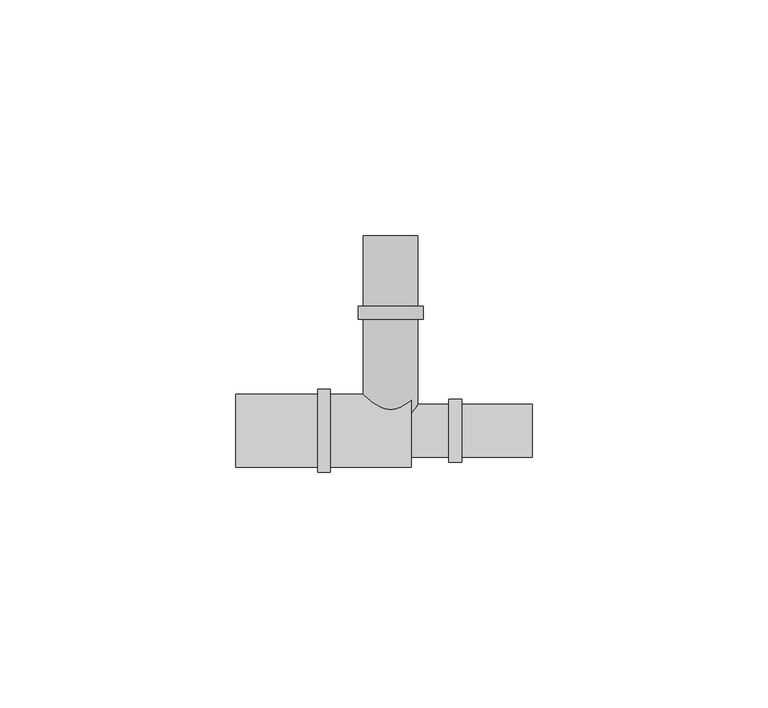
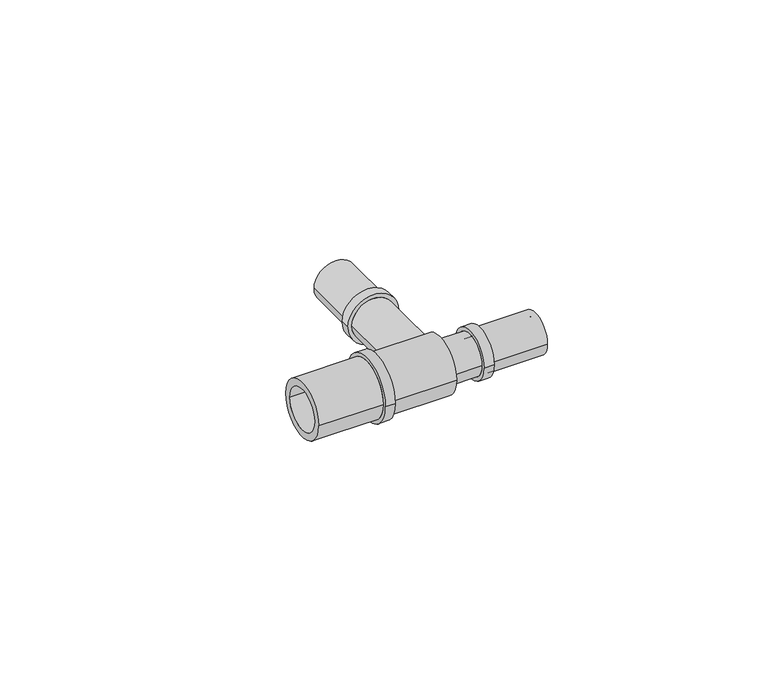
"""IFC4 building model written with IfcOpenShell, lengths in millimetres: pipe fitting geometry, FASTLOC_T-piece_LX : FSL T-Piece LX PL."""

from ifc_helpers import new_model, si_unit, frame, origin, place, context, project, spatial, polyline, circle_curve, source, transform, mapped, element, save
from ifc_brep_helpers import plane_surface, cylinder_surface, revolved_surface, advanced_brep


def pipe_fitting_dcf4181b(model_context):
    return source(origin(), model_context, "Body", "AdvancedBrep", [
        advanced_brep(
        [(3.95, 41.4, 0.0), (-3.95, 41.4, 0.0), (-3.95, 0.0, 0.0), (3.95, 0.0, 0.0), (5.8, 0.0, 0.0), (-5.8, 0.0, 0.0), (-5.8, 23.69, 0.0), (5.8, 23.69, 0.0), (6.9, 23.69, 0.0), (-6.9, 23.69, 0.0), (-6.9, 26.4, 0.0), (6.9, 26.4, 0.0), (5.8, 26.4, 0.0), (-5.8, 26.4, 0.0), (-5.8, 41.4, 0.0), (5.8, 41.4, 0.0)],
        [
            (0, 1, circle_curve(frame((0.0, 41.4, 0.0), z_axis=(0.0, 1.0, 0.0), x_axis=(-1.0, 0.0, 0.0)), 3.95)),
            (1, 2),
            (2, 3, circle_curve(frame((0.0, 0.0, 0.0), z_axis=(0.0, -1.0, 0.0), x_axis=(-1.0, 0.0, 0.0)), 3.95)),
            (3, 0),
            (4, 5, circle_curve(frame((0.0, 0.0, 0.0), z_axis=(0.0, 1.0, 0.0), x_axis=(-1.0, 0.0, 0.0)), 5.8)),
            (5, 6),
            (6, 7, circle_curve(frame((0.0, 23.69, 0.0), z_axis=(0.0, -1.0, 0.0), x_axis=(-1.0, 0.0, 0.0)), 5.8)),
            (7, 4),
            (8, 9, circle_curve(frame((0.0, 23.69, 0.0), z_axis=(0.0, 1.0, 0.0), x_axis=(-1.0, 0.0, 0.0)), 6.9)),
            (9, 10),
            (10, 11, circle_curve(frame((0.0, 26.4, 0.0), z_axis=(0.0, -1.0, 0.0), x_axis=(-1.0, 0.0, 0.0)), 6.9)),
            (11, 8),
            (12, 13, circle_curve(frame((0.0, 26.4, 0.0), z_axis=(0.0, 1.0, 0.0), x_axis=(-1.0, 0.0, 0.0)), 5.8)),
            (13, 14),
            (14, 15, circle_curve(frame((0.0, 41.4, 0.0), z_axis=(0.0, -1.0, 0.0), x_axis=(-1.0, 0.0, 0.0)), 5.8)),
            (15, 12),
            (1, 0, circle_curve(frame((0.0, 41.4, 0.0), z_axis=(0.0, 1.0, 0.0), x_axis=(1.0, 0.0, 0.0)), 3.95)),
            (3, 2, circle_curve(frame((0.0, 0.0, 0.0), z_axis=(0.0, -1.0, 0.0), x_axis=(1.0, 0.0, 0.0)), 3.95)),
            (4, 5, circle_curve(frame((0.0, 0.0, 0.0), z_axis=(0.0, -1.0, 0.0), x_axis=(1.0, 0.0, 0.0)), 5.8)),
            (7, 6, circle_curve(frame((0.0, 23.69, 0.0), z_axis=(0.0, -1.0, 0.0), x_axis=(1.0, 0.0, 0.0)), 5.8)),
            (8, 9, circle_curve(frame((0.0, 23.69, 0.0), z_axis=(0.0, -1.0, 0.0), x_axis=(1.0, 0.0, 0.0)), 6.9)),
            (11, 10, circle_curve(frame((0.0, 26.4, 0.0), z_axis=(0.0, -1.0, 0.0), x_axis=(1.0, 0.0, 0.0)), 6.9)),
            (12, 13, circle_curve(frame((0.0, 26.4, 0.0), z_axis=(0.0, -1.0, 0.0), x_axis=(1.0, 0.0, 0.0)), 5.8)),
            (15, 14, circle_curve(frame((0.0, 41.4, 0.0), z_axis=(0.0, -1.0, 0.0), x_axis=(1.0, 0.0, 0.0)), 5.8)),
        ],
        [
            revolved_surface(polyline([(-3.95, 0.0, 0.0), (-3.95, 41.4, 0.0)]), (0.0, 0.0, 0.0), (0.0, -1.0, 0.0)),
            cylinder_surface(frame((0.0, 0.0, 0.0), z_axis=(0.0, -1.0, 0.0), x_axis=(-1.0, 0.0, 0.0)), 5.8),
            cylinder_surface(frame((0.0, 0.0, 0.0), z_axis=(0.0, -1.0, 0.0), x_axis=(-1.0, 0.0, 0.0)), 6.9),
            revolved_surface(polyline([(3.95, 0.0, 0.0), (3.95, 41.4, 0.0)]), (0.0, 0.0, 0.0), (0.0, -1.0, 0.0)),
            plane_surface(frame((0.0, 0.0, 0.0), z_axis=(0.0, -1.0, 0.0), x_axis=(1.0, 0.0, 0.0))),
            cylinder_surface(frame((0.0, 0.0, 0.0), z_axis=(0.0, -1.0, 0.0), x_axis=(1.0, 0.0, 0.0)), 5.8),
            plane_surface(frame((0.0, 23.69, 0.0), z_axis=(0.0, -1.0, 0.0), x_axis=(1.0, 0.0, 0.0))),
            cylinder_surface(frame((0.0, 0.0, 0.0), z_axis=(0.0, -1.0, 0.0), x_axis=(1.0, 0.0, 0.0)), 6.9),
            plane_surface(frame((0.0, 26.4, 0.0), z_axis=(0.0, 1.0, 0.0), x_axis=(1.0, 0.0, 0.0))),
            plane_surface(frame((0.0, 41.4, 0.0), z_axis=(0.0, 1.0, 0.0), x_axis=(1.0, 0.0, 0.0))),
        ],
        [
            (0, [[1, 2, 3, 4]]),
            (1, [[5, 6, 7, 8]]),
            (2, [[9, 10, 11, 12]]),
            (1, [[13, 14, 15, 16]]),
            (3, [[17, -4, 18, -2]]),
            (4, [[19, -5], [-18, -3]]),
            (5, [[-19, -8, 20, -6]]),
            (6, [[21, -9], [-20, -7]]),
            (7, [[-21, -12, 22, -10]]),
            (8, [[-22, -11], [23, -13]]),
            (5, [[-23, -16, 24, -14]]),
            (9, [[-24, -15], [-17, -1]]),
        ],
    ),
        advanced_brep(
        [(12.39, 5.6, 0.0), (12.39, -5.6, 0.0), (4.35, -5.6, 0.0), (4.35, 5.6, 0.0), (15.1, 6.7, 0.0), (15.1, -6.7, 0.0), (12.39, -6.7, 0.0), (12.39, 6.7, 0.0), (30.1, 5.6, 0.0), (30.1, -5.6, 0.0), (15.1, -5.6, 0.0), (15.1, 5.6, 0.0), (2.5, 3.75, 0.0), (2.5, -3.75, 0.0), (30.1, -3.75, 0.0), (30.1, 3.75, 0.0), (-32.9, 5.75, 0.0), (-32.9, -5.75, 0.0), (2.5, -5.75, 0.0), (2.5, 5.75, 0.0), (-15.5, 7.75, 0.0), (-15.5, -7.75, 0.0), (-32.9, -7.75, 0.0), (-32.9, 7.75, 0.0), (-12.83, 8.8, 0.0), (-12.83, -8.8, 0.0), (-15.5, -8.8, 0.0), (-15.5, 8.8, 0.0), (4.35, 7.75, 0.0), (4.35, -7.75, 0.0), (-12.83, -7.75, 0.0), (-12.83, 7.75, 0.0)],
        [
            (0, 1, circle_curve(frame((12.39, 0.0, 0.0), z_axis=(-1.0, 0.0, 0.0), x_axis=(0.0, -1.0, 0.0)), 5.6)),
            (1, 2),
            (2, 3, circle_curve(frame((4.35, 0.0, 0.0), z_axis=(1.0, 0.0, 0.0), x_axis=(0.0, -1.0, 0.0)), 5.6)),
            (3, 0),
            (4, 5, circle_curve(frame((15.1, 0.0, 0.0), z_axis=(-1.0, 0.0, 0.0), x_axis=(0.0, -1.0, 0.0)), 6.7)),
            (5, 6),
            (6, 7, circle_curve(frame((12.39, 0.0, 0.0), z_axis=(1.0, 0.0, 0.0), x_axis=(0.0, -1.0, 0.0)), 6.7)),
            (7, 4),
            (8, 9, circle_curve(frame((30.1, 0.0, 0.0), z_axis=(-1.0, 0.0, 0.0), x_axis=(0.0, -1.0, 0.0)), 5.6)),
            (9, 10),
            (10, 11, circle_curve(frame((15.1, 0.0, 0.0), z_axis=(1.0, 0.0, 0.0), x_axis=(0.0, -1.0, 0.0)), 5.6)),
            (11, 8),
            (12, 13, circle_curve(frame((2.5, 0.0, 0.0), z_axis=(-1.0, 0.0, 0.0), x_axis=(0.0, -1.0, 0.0)), 3.75)),
            (13, 14),
            (14, 15, circle_curve(frame((30.1, 0.0, 0.0), z_axis=(1.0, 0.0, 0.0), x_axis=(0.0, -1.0, 0.0)), 3.75)),
            (15, 12),
            (16, 17, circle_curve(frame((-32.9, 0.0, 0.0), z_axis=(-1.0, 0.0, 0.0), x_axis=(0.0, -1.0, 0.0)), 5.75)),
            (17, 18),
            (18, 19, circle_curve(frame((2.5, 0.0, 0.0), z_axis=(1.0, 0.0, 0.0), x_axis=(0.0, -1.0, 0.0)), 5.75)),
            (19, 16),
            (20, 21, circle_curve(frame((-15.5, 0.0, 0.0), z_axis=(-1.0, 0.0, 0.0), x_axis=(0.0, -1.0, 0.0)), 7.75)),
            (21, 22),
            (22, 23, circle_curve(frame((-32.9, 0.0, 0.0), z_axis=(1.0, 0.0, 0.0), x_axis=(0.0, -1.0, 0.0)), 7.75)),
            (23, 20),
            (24, 25, circle_curve(frame((-12.83, 0.0, 0.0), z_axis=(-1.0, 0.0, 0.0), x_axis=(0.0, -1.0, 0.0)), 8.8)),
            (25, 26),
            (26, 27, circle_curve(frame((-15.5, 0.0, 0.0), z_axis=(1.0, 0.0, 0.0), x_axis=(0.0, -1.0, 0.0)), 8.8)),
            (27, 24),
            (28, 29, circle_curve(frame((4.35, 0.0, 0.0), z_axis=(-1.0, 0.0, 0.0), x_axis=(0.0, -1.0, 0.0)), 7.75)),
            (29, 30),
            (30, 31, circle_curve(frame((-12.83, 0.0, 0.0), z_axis=(1.0, 0.0, 0.0), x_axis=(0.0, -1.0, 0.0)), 7.75)),
            (31, 28),
            (28, 29, circle_curve(frame((4.35, 0.0, 0.0), z_axis=(1.0, 0.0, 0.0), x_axis=(0.0, 1.0, 0.0)), 7.75)),
            (2, 3, circle_curve(frame((4.35, 0.0, 0.0), z_axis=(-1.0, 0.0, 0.0), x_axis=(0.0, 1.0, 0.0)), 5.6)),
            (1, 0, circle_curve(frame((12.39, 0.0, 0.0), z_axis=(-1.0, 0.0, 0.0), x_axis=(0.0, 1.0, 0.0)), 5.6)),
            (6, 7, circle_curve(frame((12.39, 0.0, 0.0), z_axis=(-1.0, 0.0, 0.0), x_axis=(0.0, 1.0, 0.0)), 6.7)),
            (5, 4, circle_curve(frame((15.1, 0.0, 0.0), z_axis=(-1.0, 0.0, 0.0), x_axis=(0.0, 1.0, 0.0)), 6.7)),
            (10, 11, circle_curve(frame((15.1, 0.0, 0.0), z_axis=(-1.0, 0.0, 0.0), x_axis=(0.0, 1.0, 0.0)), 5.6)),
            (9, 8, circle_curve(frame((30.1, 0.0, 0.0), z_axis=(-1.0, 0.0, 0.0), x_axis=(0.0, 1.0, 0.0)), 5.6)),
            (14, 15, circle_curve(frame((30.1, 0.0, 0.0), z_axis=(-1.0, 0.0, 0.0), x_axis=(0.0, 1.0, 0.0)), 3.75)),
            (13, 12, circle_curve(frame((2.5, 0.0, 0.0), z_axis=(-1.0, 0.0, 0.0), x_axis=(0.0, 1.0, 0.0)), 3.75)),
            (18, 19, circle_curve(frame((2.5, 0.0, 0.0), z_axis=(-1.0, 0.0, 0.0), x_axis=(0.0, 1.0, 0.0)), 5.75)),
            (17, 16, circle_curve(frame((-32.9, 0.0, 0.0), z_axis=(-1.0, 0.0, 0.0), x_axis=(0.0, 1.0, 0.0)), 5.75)),
            (22, 23, circle_curve(frame((-32.9, 0.0, 0.0), z_axis=(-1.0, 0.0, 0.0), x_axis=(0.0, 1.0, 0.0)), 7.75)),
            (21, 20, circle_curve(frame((-15.5, 0.0, 0.0), z_axis=(-1.0, 0.0, 0.0), x_axis=(0.0, 1.0, 0.0)), 7.75)),
            (26, 27, circle_curve(frame((-15.5, 0.0, 0.0), z_axis=(-1.0, 0.0, 0.0), x_axis=(0.0, 1.0, 0.0)), 8.8)),
            (25, 24, circle_curve(frame((-12.83, 0.0, 0.0), z_axis=(-1.0, 0.0, 0.0), x_axis=(0.0, 1.0, 0.0)), 8.8)),
            (30, 31, circle_curve(frame((-12.83, 0.0, 0.0), z_axis=(-1.0, 0.0, 0.0), x_axis=(0.0, 1.0, 0.0)), 7.75)),
        ],
        [
            cylinder_surface(frame((0.0, 0.0, 0.0), z_axis=(1.0, 0.0, 0.0), x_axis=(0.0, -1.0, 0.0)), 5.6),
            cylinder_surface(frame((0.0, 0.0, 0.0), z_axis=(1.0, 0.0, 0.0), x_axis=(0.0, -1.0, 0.0)), 6.7),
            revolved_surface(polyline([(30.1, -3.75, 0.0), (2.5, -3.75, 0.0)]), (0.0, 0.0, 0.0), (1.0, 0.0, 0.0)),
            revolved_surface(polyline([(2.5, -5.75, 0.0), (-32.9, -5.75, 0.0)]), (0.0, 0.0, 0.0), (1.0, 0.0, 0.0)),
            cylinder_surface(frame((0.0, 0.0, 0.0), z_axis=(1.0, 0.0, 0.0), x_axis=(0.0, -1.0, 0.0)), 7.75),
            cylinder_surface(frame((0.0, 0.0, 0.0), z_axis=(1.0, 0.0, 0.0), x_axis=(0.0, -1.0, 0.0)), 8.8),
            plane_surface(frame((4.35, 0.0, 0.0), z_axis=(1.0, 0.0, 0.0), x_axis=(0.0, 1.0, 0.0))),
            cylinder_surface(frame((0.0, 0.0, 0.0), z_axis=(1.0, 0.0, 0.0), x_axis=(0.0, 1.0, 0.0)), 5.6),
            plane_surface(frame((12.39, 0.0, 0.0), z_axis=(-1.0, 0.0, 0.0), x_axis=(0.0, 1.0, 0.0))),
            cylinder_surface(frame((0.0, 0.0, 0.0), z_axis=(1.0, 0.0, 0.0), x_axis=(0.0, 1.0, 0.0)), 6.7),
            plane_surface(frame((15.1, 0.0, 0.0), z_axis=(1.0, 0.0, 0.0), x_axis=(0.0, 1.0, 0.0))),
            plane_surface(frame((30.1, 0.0, 0.0), z_axis=(1.0, 0.0, 0.0), x_axis=(0.0, 1.0, 0.0))),
            revolved_surface(polyline([(30.1, 3.75, 0.0), (2.5, 3.75, 0.0)]), (0.0, 0.0, 0.0), (1.0, 0.0, 0.0)),
            plane_surface(frame((2.5, 0.0, 0.0), z_axis=(-1.0, 0.0, 0.0), x_axis=(0.0, 1.0, 0.0))),
            revolved_surface(polyline([(2.5, 5.75, 0.0), (-32.9, 5.75, 0.0)]), (0.0, 0.0, 0.0), (1.0, 0.0, 0.0)),
            plane_surface(frame((-32.9, 0.0, 0.0), z_axis=(-1.0, 0.0, 0.0), x_axis=(0.0, 1.0, 0.0))),
            cylinder_surface(frame((0.0, 0.0, 0.0), z_axis=(1.0, 0.0, 0.0), x_axis=(0.0, 1.0, 0.0)), 7.75),
            plane_surface(frame((-15.5, 0.0, 0.0), z_axis=(-1.0, 0.0, 0.0), x_axis=(0.0, 1.0, 0.0))),
            cylinder_surface(frame((0.0, 0.0, 0.0), z_axis=(1.0, 0.0, 0.0), x_axis=(0.0, 1.0, 0.0)), 8.8),
            plane_surface(frame((-12.83, 0.0, 0.0), z_axis=(1.0, 0.0, 0.0), x_axis=(0.0, 1.0, 0.0))),
        ],
        [
            (0, [[1, 2, 3, 4]]),
            (1, [[5, 6, 7, 8]]),
            (0, [[9, 10, 11, 12]]),
            (2, [[13, 14, 15, 16]]),
            (3, [[17, 18, 19, 20]]),
            (4, [[21, 22, 23, 24]]),
            (5, [[25, 26, 27, 28]]),
            (4, [[29, 30, 31, 32]]),
            (6, [[33, -29], [34, -3]]),
            (7, [[35, -4, -34, -2]]),
            (8, [[36, -7], [-35, -1]]),
            (9, [[37, -8, -36, -6]]),
            (10, [[-37, -5], [38, -11]]),
            (7, [[39, -12, -38, -10]]),
            (11, [[-39, -9], [40, -15]]),
            (12, [[41, -16, -40, -14]]),
            (13, [[42, -19], [-41, -13]]),
            (14, [[43, -20, -42, -18]]),
            (15, [[44, -23], [-43, -17]]),
            (16, [[45, -24, -44, -22]]),
            (17, [[46, -27], [-45, -21]]),
            (18, [[47, -28, -46, -26]]),
            (19, [[-47, -25], [48, -31]]),
            (16, [[-33, -32, -48, -30]]),
        ],
    ),
    ])


if __name__ == "__main__":
    model = new_model("IFC4")
    model_context = context("Model", 3, world=origin())
    ifc_project = project(units=[si_unit("LENGTHUNIT", "METRE", prefix="MILLI")], contexts=[model_context])
    site = spatial("IfcSite", under=ifc_project)
    building = spatial("IfcBuilding", under=site)
    placement = place(None, origin())
    pipe_fitting_shape = pipe_fitting_dcf4181b(model_context)
    element("IfcPipeFitting", 1, ObjectType="FASTLOC_T-piece_LX : FSL T-Piece LX PL", at=placement, inside=building, context=model_context, shape_type="MappedRepresentation", body=[
        mapped(pipe_fitting_shape, transform((0.0, 0.0, 0.0), x_axis=(1.0, 0.0, 0.0), y_axis=(0.0, 1.0, 0.0), z_axis=(0.0, 0.0, 1.0))),
    ])
    save(model, "model.ifc")
